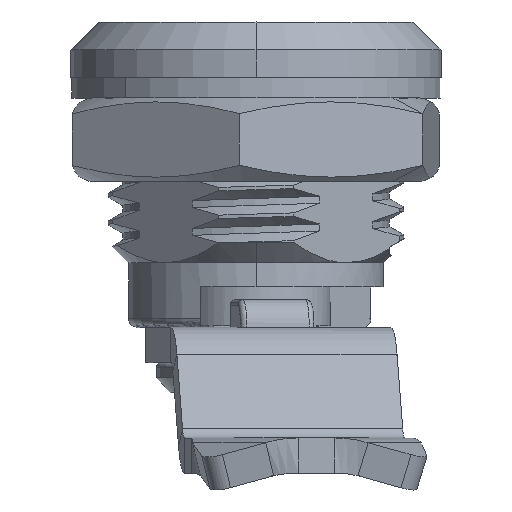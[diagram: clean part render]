
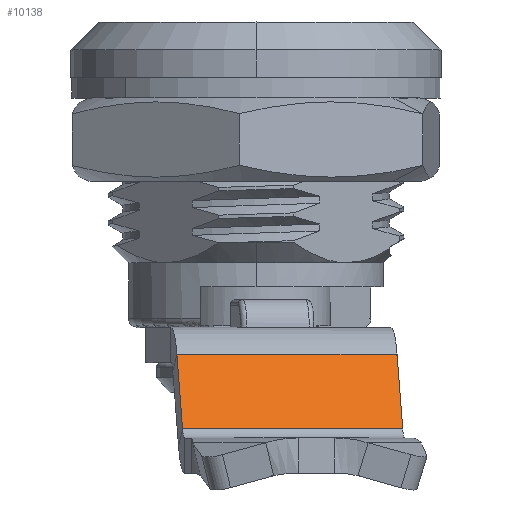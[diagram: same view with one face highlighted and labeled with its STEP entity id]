
A CAD part, top view. The second image highlights one B-rep face of the part: STEP entity #10138.
In plain terms, the highlighted planar face has unit normal (0.113, 0.5, 0.859) as drawn and (0.866, 0.5, 0) by its records, which use the part's own axes.
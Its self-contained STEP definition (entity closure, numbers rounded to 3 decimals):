
#292 = CARTESIAN_POINT ( 'NONE',  ( 12.811, -1.45, 6. ) ) ;
#1502 = EDGE_LOOP ( 'NONE', ( #19535, #12268, #6326, #30548 ) ) ;
#1837 = EDGE_CURVE ( 'NONE', #29152, #14602, #22912, .T. ) ;
#2078 = VERTEX_POINT ( 'NONE', #8310 ) ;
#4465 = DIRECTION ( 'NONE',  ( 0., 0., 1. ) ) ;
#4844 = DIRECTION ( 'NONE',  ( 0., 0., 1. ) ) ;
#5273 = CARTESIAN_POINT ( 'NONE',  ( 12.811, -1.45, 0. ) ) ;
#5959 = CARTESIAN_POINT ( 'NONE',  ( 6.64, 9.239, -6. ) ) ;
#6326 = ORIENTED_EDGE ( 'NONE', *, *, #14052, .F. ) ;
#6408 = VECTOR ( 'NONE', #4844, 1000. ) ;
#6856 = VECTOR ( 'NONE', #30736, 1000. ) ;
#8310 = CARTESIAN_POINT ( 'NONE',  ( 12.811, -1.45, -6. ) ) ;
#8821 = EDGE_CURVE ( 'NONE', #14563, #2078, #15660, .T. ) ;
#9932 = AXIS2_PLACEMENT_3D ( 'NONE', #13843, #19201, #4465 ) ;
#10138 = ADVANCED_FACE ( 'NONE', ( #23870 ), #24032, .T. ) ;
#12268 = ORIENTED_EDGE ( 'NONE', *, *, #8821, .T. ) ;
#12881 = CARTESIAN_POINT ( 'NONE',  ( 20.665, -15.053, 6. ) ) ;
#13066 = EDGE_CURVE ( 'NONE', #14563, #14602, #18812, .T. ) ;
#13843 = CARTESIAN_POINT ( 'NONE',  ( 6.64, 9.239, 0. ) ) ;
#14052 = EDGE_CURVE ( 'NONE', #29152, #2078, #17574, .T. ) ;
#14563 = VERTEX_POINT ( 'NONE', #16207 ) ;
#14602 = VERTEX_POINT ( 'NONE', #27809 ) ;
#15660 = LINE ( 'NONE', #5959, #6856 ) ;
#16045 = CARTESIAN_POINT ( 'NONE',  ( 15.151, -5.503, 0. ) ) ;
#16207 = CARTESIAN_POINT ( 'NONE',  ( 15.151, -5.503, -6. ) ) ;
#17574 = LINE ( 'NONE', #5273, #23463 ) ;
#18812 = LINE ( 'NONE', #16045, #6408 ) ;
#19201 = DIRECTION ( 'NONE',  ( 0.866, 0.5, 0. ) ) ;
#19535 = ORIENTED_EDGE ( 'NONE', *, *, #13066, .F. ) ;
#20500 = DIRECTION ( 'NONE',  ( 0.5, -0.866, 0. ) ) ;
#22596 = VECTOR ( 'NONE', #20500, 1000. ) ;
#22912 = LINE ( 'NONE', #12881, #22596 ) ;
#23463 = VECTOR ( 'NONE', #25169, 1000. ) ;
#23870 = FACE_OUTER_BOUND ( 'NONE', #1502, .T. ) ;
#24032 = PLANE ( 'NONE',  #9932 ) ;
#25169 = DIRECTION ( 'NONE',  ( 0., 0., -1. ) ) ;
#27809 = CARTESIAN_POINT ( 'NONE',  ( 15.151, -5.503, 6. ) ) ;
#29152 = VERTEX_POINT ( 'NONE', #292 ) ;
#30548 = ORIENTED_EDGE ( 'NONE', *, *, #1837, .T. ) ;
#30736 = DIRECTION ( 'NONE',  ( -0.5, 0.866, 0. ) ) ;
